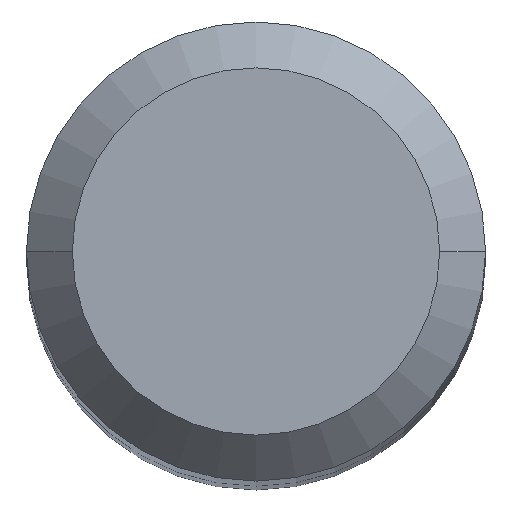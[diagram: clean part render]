
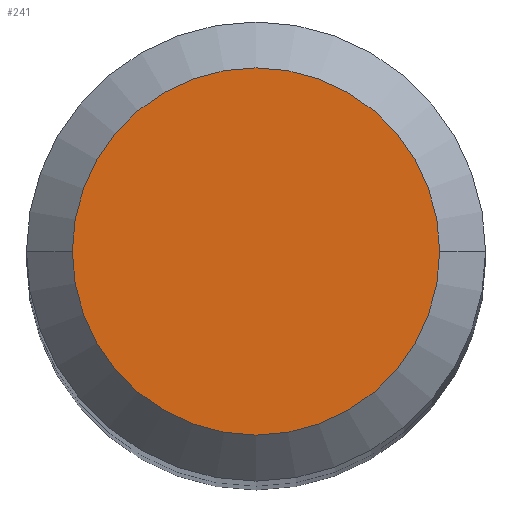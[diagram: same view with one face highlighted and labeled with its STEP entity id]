
A CAD part, top view. The second image highlights one B-rep face of the part: STEP entity #241.
In plain terms, the highlighted planar face has unit normal (0, 0, 1).
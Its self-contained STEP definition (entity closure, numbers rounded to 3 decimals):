
#18 = PLANE ( 'NONE',  #271 ) ;
#19 = CARTESIAN_POINT ( 'NONE',  ( 0., 0., 0. ) ) ;
#36 = ORIENTED_EDGE ( 'NONE', *, *, #215, .F. ) ;
#40 = EDGE_CURVE ( 'NONE', #260, #340, #131, .T. ) ;
#52 = DIRECTION ( 'NONE',  ( 0., 0., 1. ) ) ;
#56 = CIRCLE ( 'NONE', #128, 3.2 ) ;
#77 = DIRECTION ( 'NONE',  ( 0., 0., -1. ) ) ;
#107 = DIRECTION ( 'NONE',  ( 0., 0., -1. ) ) ;
#128 = AXIS2_PLACEMENT_3D ( 'NONE', #19, #107, #240 ) ;
#131 = CIRCLE ( 'NONE', #191, 3.2 ) ;
#134 = DIRECTION ( 'NONE',  ( -1., 0., 0. ) ) ;
#135 = CARTESIAN_POINT ( 'NONE',  ( -3.2, 0., 0. ) ) ;
#178 = FACE_OUTER_BOUND ( 'NONE', #293, .T. ) ;
#191 = AXIS2_PLACEMENT_3D ( 'NONE', #200, #77, #134 ) ;
#200 = CARTESIAN_POINT ( 'NONE',  ( 0., 0., 0. ) ) ;
#215 = EDGE_CURVE ( 'NONE', #340, #260, #56, .T. ) ;
#224 = ORIENTED_EDGE ( 'NONE', *, *, #40, .F. ) ;
#240 = DIRECTION ( 'NONE',  ( -1., 0., 0. ) ) ;
#241 = ADVANCED_FACE ( 'NONE', ( #178 ), #18, .T. ) ;
#260 = VERTEX_POINT ( 'NONE', #135 ) ;
#271 = AXIS2_PLACEMENT_3D ( 'NONE', #390, #52, #366 ) ;
#281 = CARTESIAN_POINT ( 'NONE',  ( 3.2, 0., 0. ) ) ;
#293 = EDGE_LOOP ( 'NONE', ( #224, #36 ) ) ;
#340 = VERTEX_POINT ( 'NONE', #281 ) ;
#366 = DIRECTION ( 'NONE',  ( 1., 0., 0. ) ) ;
#390 = CARTESIAN_POINT ( 'NONE',  ( 0., 3.2, 0. ) ) ;
